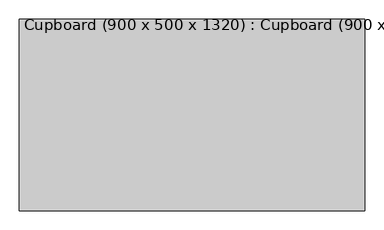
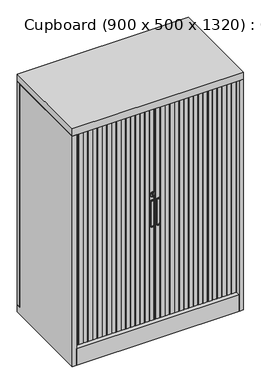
"""IFC4 building model written with IfcOpenShell, lengths in millimetres: furniture geometry, Cupboard (900 x 500 x 1320) : Cupboard (900 x 500 x 1320)."""

from ifc_helpers import new_model, si_unit, point, frame, frame_2d, origin, origin_with_axes, place, context, project, spatial, polyline, circle_curve, ellipse_curve, trimmed, segment, composite_curve, outline, extrude, faceted_brep, source, transform, mapped, element, save
from ifc_brep_helpers import plane_surface, cylinder_surface, revolved_surface, advanced_brep


def cupboard_900_x_500_x_1320_cupboard_900_x_500_x_1320_df4613f7(model_context):
    return source(origin(), model_context, "Body", "SolidModel", [
        advanced_brep(
        [(26.5273848, -229.0, 621.9022034), (26.5273848, -229.0, 748.0527572), (4.5273848, -229.0, 748.0527572), (4.5273848, -229.0, 621.9022034), (6.5273848, -229.0, 622.046184), (6.5273848, -229.0, 748.0415606), (24.5273848, -229.0, 748.0415606), (24.5273848, -229.0, 622.046184), (3.5273848, -228.0, 621.9022034), (3.5273848, -226.0, 621.9022034), (27.5273848, -226.0, 621.9022034), (27.5273848, -228.0, 621.9022034), (27.5273848, -220.0, 621.9022034), (27.5273848, -220.0, 748.0527572), (27.5273848, -226.0, 748.0527572), (27.5273848, -228.0, 748.0527572), (3.5273848, -226.0, 748.0527572), (3.5273848, -228.0, 748.0527572), (3.5273848, -220.0, 748.0527572), (3.5273848, -220.0, 621.9022034), (7.5273848, -228.0, 748.0415606), (7.5273848, -226.0, 748.0415606), (23.5273848, -226.0, 748.0415606), (23.5273848, -228.0, 748.0415606), (23.5273848, -226.0, 622.046184), (23.5273848, -228.0, 622.046184), (7.5273848, -226.0, 622.046184), (7.5273848, -228.0, 622.046184)],
        [
            (0, 1),
            (1, 2, circle_curve(frame((15.5273848, -229.0, 748.0527572), z_axis=(0.0, -1.0, 0.0), x_axis=(-1.0, 0.0, 0.0)), 11.0)),
            (2, 3),
            (3, 0, circle_curve(frame((15.5273848, -229.0, 621.9022034), z_axis=(0.0, -1.0, 0.0), x_axis=(1.0, 0.0, 0.0)), 11.0)),
            (4, 5),
            (5, 6, circle_curve(frame((15.5273848, -229.0, 748.0415606), z_axis=(0.0, 1.0, 0.0), x_axis=(1.0, 0.0, 0.0)), 9.0)),
            (6, 7),
            (7, 4, circle_curve(frame((15.5273848, -229.0, 622.046184), z_axis=(0.0, 1.0, 0.0), x_axis=(-1.0, 0.0, 0.0)), 9.0)),
            (8, 9),
            (9, 10, circle_curve(frame((15.5273848, -226.0, 621.9022034), z_axis=(0.0, -1.0, 0.0), x_axis=(1.0, 0.0, 0.0)), 12.0)),
            (10, 11),
            (11, 8, circle_curve(frame((15.5273848, -228.0, 621.9022034), z_axis=(0.0, 1.0, 0.0), x_axis=(1.0, 0.0, 0.0)), 12.0)),
            (10, 12),
            (12, 13),
            (13, 14),
            (14, 15),
            (15, 11),
            (14, 16, circle_curve(frame((15.5273848, -226.0, 748.0527572), z_axis=(0.0, -1.0, 0.0), x_axis=(1.0, 0.0, 0.0)), 12.0)),
            (16, 17),
            (17, 15, circle_curve(frame((15.5273848, -228.0, 748.0527572), z_axis=(0.0, 1.0, 0.0), x_axis=(1.0, 0.0, 0.0)), 12.0)),
            (8, 17),
            (16, 18),
            (18, 19),
            (19, 9),
            (20, 21),
            (21, 22, circle_curve(frame((15.5273848, -226.0, 748.0415606), z_axis=(0.0, 1.0, 0.0), x_axis=(1.0, 0.0, 0.0)), 8.0)),
            (22, 23),
            (23, 20, circle_curve(frame((15.5273848, -228.0, 748.0415606), z_axis=(0.0, -1.0, 0.0), x_axis=(1.0, 0.0, 0.0)), 8.0)),
            (22, 24),
            (24, 25),
            (25, 23),
            (24, 26, circle_curve(frame((15.5273848, -226.0, 622.046184), z_axis=(0.0, 1.0, 0.0), x_axis=(1.0, 0.0, 0.0)), 8.0)),
            (26, 27),
            (27, 25, circle_curve(frame((15.5273848, -228.0, 622.046184), z_axis=(0.0, -1.0, 0.0), x_axis=(1.0, 0.0, 0.0)), 8.0)),
            (20, 27),
            (26, 21),
            (4, 27, circle_curve(frame((6.5273848, -228.0, 622.046184), z_axis=(0.0, 0.0, 1.0), x_axis=(-1.0, 0.0, 0.0)), 1.0)),
            (20, 5, circle_curve(frame((6.5273848, -228.0, 748.0415606), z_axis=(0.0, 0.0, -1.0), x_axis=(-1.0, 0.0, 0.0)), 1.0)),
            (7, 25, circle_curve(frame((24.5273848, -228.0, 622.046184), z_axis=(0.0, 0.0, -1.0), x_axis=(1.0, 0.0, 0.0)), 1.0)),
            (6, 23, circle_curve(frame((24.5273848, -228.0, 748.0415606), z_axis=(0.0, 0.0, -1.0), x_axis=(1.0, 0.0, 0.0)), 1.0)),
            (0, 11, circle_curve(frame((26.5273848, -228.0, 621.9022034), z_axis=(0.0, 0.0, 1.0), x_axis=(1.0, 0.0, 0.0)), 1.0)),
            (15, 1, circle_curve(frame((26.5273848, -228.0, 748.0527572), z_axis=(0.0, 0.0, -1.0), x_axis=(1.0, 0.0, 0.0)), 1.0)),
            (3, 8, circle_curve(frame((4.5273848, -228.0, 621.9022034), z_axis=(0.0, 0.0, -1.0), x_axis=(-1.0, 0.0, 0.0)), 1.0)),
            (2, 17, circle_curve(frame((4.5273848, -228.0, 748.0527572), z_axis=(0.0, 0.0, -1.0), x_axis=(-1.0, 0.0, 0.0)), 1.0)),
            (18, 13, circle_curve(frame((15.5273848, -220.0, 748.0527572), z_axis=(0.0, 1.0, 0.0), x_axis=(1.0, 0.0, 0.0)), 12.0)),
            (12, 19, circle_curve(frame((15.5273848, -220.0, 621.9022034), z_axis=(0.0, 1.0, 0.0), x_axis=(1.0, 0.0, 0.0)), 12.0)),
        ],
        [
            plane_surface(frame((27.5273848, -229.0, 621.9022034), z_axis=(0.0, -1.0, 0.0), x_axis=(0.0, 0.0, 1.0))),
            cylinder_surface(frame((15.5273848, -226.0, 621.9022034), z_axis=(0.0, -1.0, 0.0), x_axis=(1.0, 0.0, 0.0)), 12.0),
            plane_surface(frame((27.5273848, -229.0, 621.9022034), z_axis=(1.0, 0.0, 0.0), x_axis=(0.0, 1.0, 0.0))),
            cylinder_surface(frame((15.5273848, -226.0, 748.0527572), z_axis=(0.0, -1.0, 0.0), x_axis=(1.0, 0.0, 0.0)), 12.0),
            plane_surface(frame((3.5273848, -229.0, 748.0527572), z_axis=(-1.0, 0.0, 0.0), x_axis=(0.0, 1.0, 0.0))),
            revolved_surface(polyline([(23.5273848, -226.0, 748.0415606), (23.5273848, -228.0, 748.0415606)]), (15.5273848, -229.0, 748.0415606), (0.0, 1.0, 0.0)),
            plane_surface(frame((23.5273848, -229.0, 748.0415606), z_axis=(-1.0, 0.0, 0.0), x_axis=(0.0, 1.0, 0.0))),
            revolved_surface(polyline([(23.5273848, -226.0, 622.046184), (23.5273848, -228.0, 622.046184)]), (15.5273848, -229.0, 622.046184), (0.0, 1.0, 0.0)),
            plane_surface(frame((7.5273848, -229.0, 622.046184), z_axis=(1.0, 0.0, 0.0), x_axis=(0.0, 1.0, 0.0))),
            cylinder_surface(frame((6.5273848, -228.0, 748.0415606), z_axis=(0.0, 0.0, -1.0), x_axis=(-1.0, 0.0, 0.0)), 1.0),
            revolved_surface(trimmed(ellipse_curve(frame((6.5273848, -228.0, 622.046184), z_axis=(0.0, 0.0, 1.0), x_axis=(-1.0, 0.0, 0.0)), 1.0, 1.0), [point((6.5273848, -229.0, 622.046184))], [point((7.5273848, -228.0, 622.046184))], True, "CARTESIAN"), (15.5273848, -229.0, 622.046184), (0.0, -1.0, 0.0)),
            cylinder_surface(frame((24.5273848, -228.0, 622.046184), z_axis=(0.0, 0.0, 1.0), x_axis=(1.0, 0.0, 0.0)), 1.0),
            revolved_surface(trimmed(ellipse_curve(frame((24.5273848, -228.0, 748.0415606), z_axis=(0.0, 0.0, -1.0), x_axis=(1.0, 0.0, 0.0)), 1.0, 1.0), [point((24.5273848, -229.0, 748.0415606))], [point((23.5273848, -228.0, 748.0415606))], True, "CARTESIAN"), (15.5273848, -229.0, 748.0415606), (0.0, -1.0, 0.0)),
            cylinder_surface(frame((26.5273848, -228.0, 748.0527572), z_axis=(0.0, 0.0, -1.0), x_axis=(1.0, 0.0, 0.0)), 1.0),
            revolved_surface(trimmed(ellipse_curve(frame((26.5273848, -228.0, 621.9022034), z_axis=(0.0, 0.0, 1.0), x_axis=(1.0, 0.0, 0.0)), 1.0, 1.0), [point((26.5273848, -229.0, 621.9022034))], [point((27.5273848, -228.0, 621.9022034))], True, "CARTESIAN"), (15.5273848, -229.0, 621.9022034), (0.0, 1.0, 0.0)),
            cylinder_surface(frame((4.5273848, -228.0, 621.9022034), z_axis=(0.0, 0.0, 1.0), x_axis=(-1.0, 0.0, 0.0)), 1.0),
            revolved_surface(trimmed(ellipse_curve(frame((4.5273848, -228.0, 748.0527572), z_axis=(0.0, 0.0, -1.0), x_axis=(-1.0, 0.0, 0.0)), 1.0, 1.0), [point((4.5273848, -229.0, 748.0527572))], [point((3.5273848, -228.0, 748.0527572))], True, "CARTESIAN"), (15.5273848, -229.0, 748.0527572), (0.0, 1.0, 0.0)),
            plane_surface(frame((27.5273848, -226.0, 621.9022034), z_axis=(0.0, -1.0, 0.0), x_axis=(0.0, 0.0, 1.0))),
            plane_surface(frame((27.5273848, -220.0, 621.9022034), z_axis=(0.0, 1.0, 0.0), x_axis=(0.0, 0.0, -1.0))),
            cylinder_surface(frame((15.5273848, -220.0, 621.9022034), z_axis=(0.0, -1.0, 0.0), x_axis=(1.0, 0.0, 0.0)), 12.0),
            cylinder_surface(frame((15.5273848, -220.0, 748.0527572), z_axis=(0.0, -1.0, 0.0), x_axis=(1.0, 0.0, 0.0)), 12.0),
        ],
        [
            (0, [[1, 2, 3, 4], [5, 6, 7, 8]]),
            (1, [[9, 10, 11, 12]]),
            (2, [[-11, 13, 14, 15, 16, 17]]),
            (3, [[-16, 18, 19, 20]]),
            (4, [[-9, 21, -19, 22, 23, 24]]),
            (5, [[25, 26, 27, 28]]),
            (6, [[-27, 29, 30, 31]]),
            (7, [[-30, 32, 33, 34]]),
            (8, [[-25, 35, -33, 36]]),
            (9, [[37, -35, 38, -5]]),
            (10, [[-37, -8, 39, -34]]),
            (11, [[-39, -7, 40, -31]]),
            (12, [[-38, -28, -40, -6]]),
            (13, [[41, -17, 42, -1]]),
            (14, [[-41, -4, 43, -12]]),
            (15, [[-43, -3, 44, -21]]),
            (16, [[-42, -20, -44, -2]]),
            (17, [[-26, -36, -32, -29]]),
            (18, [[-23, 45, -14, 46]]),
            (19, [[-46, -13, -10, -24]]),
            (20, [[-45, -22, -18, -15]]),
        ],
    ),
        advanced_brep(
        [(-26.8154748, -229.0, 789.9505671), (-3.7101479, -229.0, 789.9505671), (-14.2354266, -229.0, 796.0185691), (-14.2354266, -229.0, 784.0185691), (-16.2354266, -229.0, 784.0185691), (-16.2354266, -229.0, 796.0185691), (-27.8154748, -220.0, 789.9505671), (-2.7101479, -220.0, 789.9505671), (-14.2354266, -220.0, 796.0185691), (-16.2354266, -220.0, 796.0185691), (-16.2354266, -220.0, 784.0185691), (-14.2354266, -220.0, 784.0185691), (-2.7101479, -228.0, 789.9505671), (-27.8154748, -228.0, 789.9505671)],
        [
            (0, 1, circle_curve(frame((-15.2628114, -229.0, 789.9505671), z_axis=(0.0, -1.0, 0.0), x_axis=(1.0, 0.0, 0.0)), 11.5526635)),
            (1, 0, circle_curve(frame((-15.2628114, -229.0, 789.9505671), z_axis=(0.0, -1.0, 0.0), x_axis=(-1.0, 0.0, 0.0)), 11.5526635)),
            (2, 3),
            (3, 4),
            (4, 5),
            (5, 2),
            (6, 7, circle_curve(frame((-15.2628114, -220.0, 789.9505671), z_axis=(0.0, 1.0, 0.0), x_axis=(1.0, 0.0, 0.0)), 12.5526635)),
            (7, 6, circle_curve(frame((-15.2628114, -220.0, 789.9505671), z_axis=(0.0, 1.0, 0.0), x_axis=(1.0, 0.0, 0.0)), 12.5526635)),
            (8, 9),
            (9, 10),
            (10, 11),
            (11, 8),
            (7, 12),
            (12, 13, circle_curve(frame((-15.2628114, -228.0, 789.9505671), z_axis=(0.0, 1.0, 0.0), x_axis=(1.0, 0.0, 0.0)), 12.5526635)),
            (13, 6),
            (13, 12, circle_curve(frame((-15.2628114, -228.0, 789.9505671), z_axis=(0.0, 1.0, 0.0), x_axis=(1.0, 0.0, 0.0)), 12.5526635)),
            (2, 8),
            (11, 3),
            (10, 4),
            (9, 5),
            (0, 13, circle_curve(frame((-26.8154748, -228.0, 789.9505671), z_axis=(0.0, 0.0, -1.0), x_axis=(-1.0, 0.0, 0.0)), 1.0)),
            (12, 1, circle_curve(frame((-3.7101479, -228.0, 789.9505671), z_axis=(0.0, 0.0, -1.0), x_axis=(1.0, 0.0, 0.0)), 1.0)),
        ],
        [
            plane_surface(frame((-2.7101479, -229.0, 789.9505671), z_axis=(0.0, -1.0, 0.0), x_axis=(0.0, 0.0, 1.0))),
            plane_surface(frame((-2.7101479, -220.0, 789.9505671), z_axis=(0.0, 1.0, 0.0), x_axis=(0.0, 0.0, -1.0))),
            cylinder_surface(frame((-15.2628114, -220.0, 789.9505671), z_axis=(0.0, -1.0, 0.0), x_axis=(1.0, 0.0, 0.0)), 12.5526635),
            plane_surface(frame((-14.2354266, -229.0, 796.0185691), z_axis=(-1.0, 0.0, 0.0), x_axis=(0.0, 1.0, 0.0))),
            plane_surface(frame((-14.2354266, -229.0, 784.0185691), z_axis=(0.0, 0.0, 1.0), x_axis=(0.0, 1.0, 0.0))),
            plane_surface(frame((-16.2354266, -229.0, 784.0185691), z_axis=(1.0, 0.0, 0.0), x_axis=(0.0, 1.0, 0.0))),
            plane_surface(frame((-16.2354266, -229.0, 796.0185691), z_axis=(0.0, 0.0, -1.0), x_axis=(0.0, 1.0, 0.0))),
            revolved_surface(trimmed(ellipse_curve(frame((-3.7101479, -228.0, 789.9505671), z_axis=(0.0, 0.0, 1.0), x_axis=(1.0, 0.0, 0.0)), 1.0, 1.0), [point((-3.7101479, -229.0, 789.9505671))], [point((-2.7101479, -228.0, 789.9505671))], True, "CARTESIAN"), (-15.2628114, -229.0, 789.9505671), (0.0, 1.0, 0.0)),
            revolved_surface(trimmed(ellipse_curve(frame((-26.8154748, -228.0, 789.9505671), z_axis=(0.0, 0.0, -1.0), x_axis=(-1.0, 0.0, 0.0)), 1.0, 1.0), [point((-26.8154748, -229.0, 789.9505671))], [point((-27.8154748, -228.0, 789.9505671))], True, "CARTESIAN"), (-15.2628114, -229.0, 789.9505671), (0.0, 1.0, 0.0)),
        ],
        [
            (0, [[1, 2], [3, 4, 5, 6]]),
            (1, [[7, 8], [9, 10, 11, 12]]),
            (2, [[-8, 13, 14, 15]]),
            (2, [[-7, -15, 16, -13]]),
            (3, [[-3, 17, -12, 18]]),
            (4, [[-4, -18, -11, 19]]),
            (5, [[-5, -19, -10, 20]]),
            (6, [[-6, -20, -9, -17]]),
            (7, [[21, -14, 22, -1]]),
            (8, [[-21, -2, -22, -16]]),
        ],
    ),
        advanced_brep(
        [(-4.2354266, -229.0, 621.9022034), (-4.2354266, -229.0, 748.0527572), (-26.2354266, -229.0, 748.0527572), (-26.2354266, -229.0, 621.9022034), (-24.2354266, -229.0, 622.046184), (-24.2354266, -229.0, 748.0415606), (-6.2354266, -229.0, 748.0415606), (-6.2354266, -229.0, 622.046184), (-27.2354266, -228.0, 621.9022034), (-27.2354266, -226.0, 621.9022034), (-3.2354266, -226.0, 621.9022034), (-3.2354266, -228.0, 621.9022034), (-3.2354266, -220.0, 621.9022034), (-3.2354266, -220.0, 748.0527572), (-3.2354266, -226.0, 748.0527572), (-3.2354266, -228.0, 748.0527572), (-27.2354266, -226.0, 748.0527572), (-27.2354266, -228.0, 748.0527572), (-27.2354266, -220.0, 748.0527572), (-27.2354266, -220.0, 621.9022034), (-23.2354266, -228.0, 748.0415606), (-23.2354266, -226.0, 748.0415606), (-7.2354266, -226.0, 748.0415606), (-7.2354266, -228.0, 748.0415606), (-7.2354266, -226.0, 622.046184), (-7.2354266, -228.0, 622.046184), (-23.2354266, -226.0, 622.046184), (-23.2354266, -228.0, 622.046184)],
        [
            (0, 1),
            (1, 2, circle_curve(frame((-15.2354266, -229.0, 748.0527572), z_axis=(0.0, -1.0, 0.0), x_axis=(-1.0, 0.0, 0.0)), 11.0)),
            (2, 3),
            (3, 0, circle_curve(frame((-15.2354266, -229.0, 621.9022034), z_axis=(0.0, -1.0, 0.0), x_axis=(1.0, 0.0, 0.0)), 11.0)),
            (4, 5),
            (5, 6, circle_curve(frame((-15.2354266, -229.0, 748.0415606), z_axis=(0.0, 1.0, 0.0), x_axis=(1.0, 0.0, 0.0)), 9.0)),
            (6, 7),
            (7, 4, circle_curve(frame((-15.2354266, -229.0, 622.046184), z_axis=(0.0, 1.0, 0.0), x_axis=(-1.0, 0.0, 0.0)), 9.0)),
            (8, 9),
            (9, 10, circle_curve(frame((-15.2354266, -226.0, 621.9022034), z_axis=(0.0, -1.0, 0.0), x_axis=(1.0, 0.0, 0.0)), 12.0)),
            (10, 11),
            (11, 8, circle_curve(frame((-15.2354266, -228.0, 621.9022034), z_axis=(0.0, 1.0, 0.0), x_axis=(1.0, 0.0, 0.0)), 12.0)),
            (10, 12),
            (12, 13),
            (13, 14),
            (14, 15),
            (15, 11),
            (14, 16, circle_curve(frame((-15.2354266, -226.0, 748.0527572), z_axis=(0.0, -1.0, 0.0), x_axis=(1.0, 0.0, 0.0)), 12.0)),
            (16, 17),
            (17, 15, circle_curve(frame((-15.2354266, -228.0, 748.0527572), z_axis=(0.0, 1.0, 0.0), x_axis=(1.0, 0.0, 0.0)), 12.0)),
            (8, 17),
            (16, 18),
            (18, 19),
            (19, 9),
            (20, 21),
            (21, 22, circle_curve(frame((-15.2354266, -226.0, 748.0415606), z_axis=(0.0, 1.0, 0.0), x_axis=(1.0, 0.0, 0.0)), 8.0)),
            (22, 23),
            (23, 20, circle_curve(frame((-15.2354266, -228.0, 748.0415606), z_axis=(0.0, -1.0, 0.0), x_axis=(1.0, 0.0, 0.0)), 8.0)),
            (22, 24),
            (24, 25),
            (25, 23),
            (24, 26, circle_curve(frame((-15.2354266, -226.0, 622.046184), z_axis=(0.0, 1.0, 0.0), x_axis=(1.0, 0.0, 0.0)), 8.0)),
            (26, 27),
            (27, 25, circle_curve(frame((-15.2354266, -228.0, 622.046184), z_axis=(0.0, -1.0, 0.0), x_axis=(1.0, 0.0, 0.0)), 8.0)),
            (20, 27),
            (26, 21),
            (4, 27, circle_curve(frame((-24.2354266, -228.0, 622.046184), z_axis=(0.0, 0.0, 1.0), x_axis=(-1.0, 0.0, 0.0)), 1.0)),
            (20, 5, circle_curve(frame((-24.2354266, -228.0, 748.0415606), z_axis=(0.0, 0.0, -1.0), x_axis=(-1.0, 0.0, 0.0)), 1.0)),
            (7, 25, circle_curve(frame((-6.2354266, -228.0, 622.046184), z_axis=(0.0, 0.0, -1.0), x_axis=(1.0, 0.0, 0.0)), 1.0)),
            (6, 23, circle_curve(frame((-6.2354266, -228.0, 748.0415606), z_axis=(0.0, 0.0, -1.0), x_axis=(1.0, 0.0, 0.0)), 1.0)),
            (0, 11, circle_curve(frame((-4.2354266, -228.0, 621.9022034), z_axis=(0.0, 0.0, 1.0), x_axis=(1.0, 0.0, 0.0)), 1.0)),
            (15, 1, circle_curve(frame((-4.2354266, -228.0, 748.0527572), z_axis=(0.0, 0.0, -1.0), x_axis=(1.0, 0.0, 0.0)), 1.0)),
            (3, 8, circle_curve(frame((-26.2354266, -228.0, 621.9022034), z_axis=(0.0, 0.0, -1.0), x_axis=(-1.0, 0.0, 0.0)), 1.0)),
            (2, 17, circle_curve(frame((-26.2354266, -228.0, 748.0527572), z_axis=(0.0, 0.0, -1.0), x_axis=(-1.0, 0.0, 0.0)), 1.0)),
            (18, 13, circle_curve(frame((-15.2354266, -220.0, 748.0527572), z_axis=(0.0, 1.0, 0.0), x_axis=(1.0, 0.0, 0.0)), 12.0)),
            (12, 19, circle_curve(frame((-15.2354266, -220.0, 621.9022034), z_axis=(0.0, 1.0, 0.0), x_axis=(1.0, 0.0, 0.0)), 12.0)),
        ],
        [
            plane_surface(frame((-3.2354266, -229.0, 621.9022034), z_axis=(0.0, -1.0, 0.0), x_axis=(0.0, 0.0, 1.0))),
            cylinder_surface(frame((-15.2354266, -226.0, 621.9022034), z_axis=(0.0, -1.0, 0.0), x_axis=(1.0, 0.0, 0.0)), 12.0),
            plane_surface(frame((-3.2354266, -229.0, 621.9022034), z_axis=(1.0, 0.0, 0.0), x_axis=(0.0, 1.0, 0.0))),
            cylinder_surface(frame((-15.2354266, -226.0, 748.0527572), z_axis=(0.0, -1.0, 0.0), x_axis=(1.0, 0.0, 0.0)), 12.0),
            plane_surface(frame((-27.2354266, -229.0, 748.0527572), z_axis=(-1.0, 0.0, 0.0), x_axis=(0.0, 1.0, 0.0))),
            revolved_surface(polyline([(-7.2354266, -226.0, 748.0415606), (-7.2354266, -228.0, 748.0415606)]), (-15.2354266, -229.0, 748.0415606), (0.0, 1.0, 0.0)),
            plane_surface(frame((-7.2354266, -229.0, 748.0415606), z_axis=(-1.0, 0.0, 0.0), x_axis=(0.0, 1.0, 0.0))),
            revolved_surface(polyline([(-7.2354266, -226.0, 622.046184), (-7.2354266, -228.0, 622.046184)]), (-15.2354266, -229.0, 622.046184), (0.0, 1.0, 0.0)),
            plane_surface(frame((-23.2354266, -229.0, 622.046184), z_axis=(1.0, 0.0, 0.0), x_axis=(0.0, 1.0, 0.0))),
            cylinder_surface(frame((-24.2354266, -228.0, 748.0415606), z_axis=(0.0, 0.0, -1.0), x_axis=(-1.0, 0.0, 0.0)), 1.0),
            revolved_surface(trimmed(ellipse_curve(frame((-24.2354266, -228.0, 622.046184), z_axis=(0.0, 0.0, 1.0), x_axis=(-1.0, 0.0, 0.0)), 1.0, 1.0), [point((-24.2354266, -229.0, 622.046184))], [point((-23.2354266, -228.0, 622.046184))], True, "CARTESIAN"), (-15.2354266, -229.0, 622.046184), (0.0, -1.0, 0.0)),
            cylinder_surface(frame((-6.2354266, -228.0, 622.046184), z_axis=(0.0, 0.0, 1.0), x_axis=(1.0, 0.0, 0.0)), 1.0),
            revolved_surface(trimmed(ellipse_curve(frame((-6.2354266, -228.0, 748.0415606), z_axis=(0.0, 0.0, -1.0), x_axis=(1.0, 0.0, 0.0)), 1.0, 1.0), [point((-6.2354266, -229.0, 748.0415606))], [point((-7.2354266, -228.0, 748.0415606))], True, "CARTESIAN"), (-15.2354266, -229.0, 748.0415606), (0.0, -1.0, 0.0)),
            cylinder_surface(frame((-4.2354266, -228.0, 748.0527572), z_axis=(0.0, 0.0, -1.0), x_axis=(1.0, 0.0, 0.0)), 1.0),
            revolved_surface(trimmed(ellipse_curve(frame((-4.2354266, -228.0, 621.9022034), z_axis=(0.0, 0.0, 1.0), x_axis=(1.0, 0.0, 0.0)), 1.0, 1.0), [point((-4.2354266, -229.0, 621.9022034))], [point((-3.2354266, -228.0, 621.9022034))], True, "CARTESIAN"), (-15.2354266, -229.0, 621.9022034), (0.0, 1.0, 0.0)),
            cylinder_surface(frame((-26.2354266, -228.0, 621.9022034), z_axis=(0.0, 0.0, 1.0), x_axis=(-1.0, 0.0, 0.0)), 1.0),
            revolved_surface(trimmed(ellipse_curve(frame((-26.2354266, -228.0, 748.0527572), z_axis=(0.0, 0.0, -1.0), x_axis=(-1.0, 0.0, 0.0)), 1.0, 1.0), [point((-26.2354266, -229.0, 748.0527572))], [point((-27.2354266, -228.0, 748.0527572))], True, "CARTESIAN"), (-15.2354266, -229.0, 748.0527572), (0.0, 1.0, 0.0)),
            plane_surface(frame((-3.2354266, -226.0, 621.9022034), z_axis=(0.0, -1.0, 0.0), x_axis=(0.0, 0.0, 1.0))),
            plane_surface(frame((-3.2354266, -220.0, 621.9022034), z_axis=(0.0, 1.0, 0.0), x_axis=(0.0, 0.0, -1.0))),
            cylinder_surface(frame((-15.2354266, -220.0, 621.9022034), z_axis=(0.0, -1.0, 0.0), x_axis=(1.0, 0.0, 0.0)), 12.0),
            cylinder_surface(frame((-15.2354266, -220.0, 748.0527572), z_axis=(0.0, -1.0, 0.0), x_axis=(1.0, 0.0, 0.0)), 12.0),
        ],
        [
            (0, [[1, 2, 3, 4], [5, 6, 7, 8]]),
            (1, [[9, 10, 11, 12]]),
            (2, [[-11, 13, 14, 15, 16, 17]]),
            (3, [[-16, 18, 19, 20]]),
            (4, [[-9, 21, -19, 22, 23, 24]]),
            (5, [[25, 26, 27, 28]]),
            (6, [[-27, 29, 30, 31]]),
            (7, [[-30, 32, 33, 34]]),
            (8, [[-25, 35, -33, 36]]),
            (9, [[37, -35, 38, -5]]),
            (10, [[-37, -8, 39, -34]]),
            (11, [[-39, -7, 40, -31]]),
            (12, [[-38, -28, -40, -6]]),
            (13, [[41, -17, 42, -1]]),
            (14, [[-41, -4, 43, -12]]),
            (15, [[-43, -3, 44, -21]]),
            (16, [[-42, -20, -44, -2]]),
            (17, [[-26, -36, -32, -29]]),
            (18, [[-23, 45, -14, 46]]),
            (19, [[-46, -13, -10, -24]]),
            (20, [[-45, -22, -18, -15]]),
        ],
    ),
        extrude(outline(composite_curve([segment(polyline([(3.0, -220.0), (28.0, -220.0), (28.0, -223.0)]), True, "CONTINUOUS"), segment(trimmed(circle_curve(frame_2d((26.0, -223.0)), 2.0), [point((28.0, -223.0))], [point((26.0, -225.0))], False, "CARTESIAN"), True, "CONTINUOUS"), segment(polyline([(26.0, -225.0), (5.0, -225.0)]), True, "CONTINUOUS"), segment(trimmed(circle_curve(frame_2d((5.0, -223.0)), 2.0), [point((5.0, -225.0))], [point((3.0, -223.0))], False, "CARTESIAN"), True, "CONTINUOUS"), segment(polyline([(3.0, -223.0), (3.0, -220.0)]), True, "CONTINUOUS")], self_intersect=False)), frame((0.0, 0.0, 90.0), z_axis=(0.0, 0.0, 1.0), x_axis=(1.0, 0.0, 0.0)), (0.0, 0.0, 1.0), 1189.5),
        extrude(outline(composite_curve([segment(polyline([(28.0, -220.0), (53.0, -220.0), (53.0, -223.0)]), True, "CONTINUOUS"), segment(trimmed(circle_curve(frame_2d((51.0, -223.0)), 2.0), [point((53.0, -223.0))], [point((51.0, -225.0))], False, "CARTESIAN"), True, "CONTINUOUS"), segment(polyline([(51.0, -225.0), (30.0, -225.0)]), True, "CONTINUOUS"), segment(trimmed(circle_curve(frame_2d((30.0, -223.0)), 2.0), [point((30.0, -225.0))], [point((28.0, -223.0))], False, "CARTESIAN"), True, "CONTINUOUS"), segment(polyline([(28.0, -223.0), (28.0, -220.0)]), True, "CONTINUOUS")], self_intersect=False)), frame((0.0, 0.0, 90.0), z_axis=(0.0, 0.0, 1.0), x_axis=(1.0, 0.0, 0.0)), (0.0, 0.0, 1.0), 1189.5),
        extrude(outline(composite_curve([segment(polyline([(53.0, -220.0), (78.0, -220.0), (78.0, -223.0)]), True, "CONTINUOUS"), segment(trimmed(circle_curve(frame_2d((76.0, -223.0)), 2.0), [point((78.0, -223.0))], [point((76.0, -225.0))], False, "CARTESIAN"), True, "CONTINUOUS"), segment(polyline([(76.0, -225.0), (55.0, -225.0)]), True, "CONTINUOUS"), segment(trimmed(circle_curve(frame_2d((55.0, -223.0)), 2.0), [point((55.0, -225.0))], [point((53.0, -223.0))], False, "CARTESIAN"), True, "CONTINUOUS"), segment(polyline([(53.0, -223.0), (53.0, -220.0)]), True, "CONTINUOUS")], self_intersect=False)), frame((0.0, 0.0, 90.0), z_axis=(0.0, 0.0, 1.0), x_axis=(1.0, 0.0, 0.0)), (0.0, 0.0, 1.0), 1189.5),
        extrude(outline(composite_curve([segment(polyline([(78.0, -220.0), (103.0, -220.0), (103.0, -223.0)]), True, "CONTINUOUS"), segment(trimmed(circle_curve(frame_2d((101.0, -223.0)), 2.0), [point((103.0, -223.0))], [point((101.0, -225.0))], False, "CARTESIAN"), True, "CONTINUOUS"), segment(polyline([(101.0, -225.0), (80.0, -225.0)]), True, "CONTINUOUS"), segment(trimmed(circle_curve(frame_2d((80.0, -223.0)), 2.0), [point((80.0, -225.0))], [point((78.0, -223.0))], False, "CARTESIAN"), True, "CONTINUOUS"), segment(polyline([(78.0, -223.0), (78.0, -220.0)]), True, "CONTINUOUS")], self_intersect=False)), frame((0.0, 0.0, 90.0), z_axis=(0.0, 0.0, 1.0), x_axis=(1.0, 0.0, 0.0)), (0.0, 0.0, 1.0), 1189.5),
        extrude(outline(composite_curve([segment(polyline([(103.0, -220.0), (128.0, -220.0), (128.0, -223.0)]), True, "CONTINUOUS"), segment(trimmed(circle_curve(frame_2d((126.0, -223.0)), 2.0), [point((128.0, -223.0))], [point((126.0, -225.0))], False, "CARTESIAN"), True, "CONTINUOUS"), segment(polyline([(126.0, -225.0), (105.0, -225.0)]), True, "CONTINUOUS"), segment(trimmed(circle_curve(frame_2d((105.0, -223.0)), 2.0), [point((105.0, -225.0))], [point((103.0, -223.0))], False, "CARTESIAN"), True, "CONTINUOUS"), segment(polyline([(103.0, -223.0), (103.0, -220.0)]), True, "CONTINUOUS")], self_intersect=False)), frame((0.0, 0.0, 90.0), z_axis=(0.0, 0.0, 1.0), x_axis=(1.0, 0.0, 0.0)), (0.0, 0.0, 1.0), 1189.5),
        extrude(outline(composite_curve([segment(polyline([(128.0, -220.0), (153.0, -220.0), (153.0, -223.0)]), True, "CONTINUOUS"), segment(trimmed(circle_curve(frame_2d((151.0, -223.0)), 2.0), [point((153.0, -223.0))], [point((151.0, -225.0))], False, "CARTESIAN"), True, "CONTINUOUS"), segment(polyline([(151.0, -225.0), (130.0, -225.0)]), True, "CONTINUOUS"), segment(trimmed(circle_curve(frame_2d((130.0, -223.0)), 2.0), [point((130.0, -225.0))], [point((128.0, -223.0))], False, "CARTESIAN"), True, "CONTINUOUS"), segment(polyline([(128.0, -223.0), (128.0, -220.0)]), True, "CONTINUOUS")], self_intersect=False)), frame((0.0, 0.0, 90.0), z_axis=(0.0, 0.0, 1.0), x_axis=(1.0, 0.0, 0.0)), (0.0, 0.0, 1.0), 1189.5),
        extrude(outline(composite_curve([segment(polyline([(153.0, -220.0), (178.0, -220.0), (178.0, -223.0)]), True, "CONTINUOUS"), segment(trimmed(circle_curve(frame_2d((176.0, -223.0)), 2.0), [point((178.0, -223.0))], [point((176.0, -225.0))], False, "CARTESIAN"), True, "CONTINUOUS"), segment(polyline([(176.0, -225.0), (155.0, -225.0)]), True, "CONTINUOUS"), segment(trimmed(circle_curve(frame_2d((155.0, -223.0)), 2.0), [point((155.0, -225.0))], [point((153.0, -223.0))], False, "CARTESIAN"), True, "CONTINUOUS"), segment(polyline([(153.0, -223.0), (153.0, -220.0)]), True, "CONTINUOUS")], self_intersect=False)), frame((0.0, 0.0, 90.0), z_axis=(0.0, 0.0, 1.0), x_axis=(1.0, 0.0, 0.0)), (0.0, 0.0, 1.0), 1189.5),
        extrude(outline(composite_curve([segment(polyline([(178.0, -220.0), (203.0, -220.0), (203.0, -223.0)]), True, "CONTINUOUS"), segment(trimmed(circle_curve(frame_2d((201.0, -223.0)), 2.0), [point((203.0, -223.0))], [point((201.0, -225.0))], False, "CARTESIAN"), True, "CONTINUOUS"), segment(polyline([(201.0, -225.0), (180.0, -225.0)]), True, "CONTINUOUS"), segment(trimmed(circle_curve(frame_2d((180.0, -223.0)), 2.0), [point((180.0, -225.0))], [point((178.0, -223.0))], False, "CARTESIAN"), True, "CONTINUOUS"), segment(polyline([(178.0, -223.0), (178.0, -220.0)]), True, "CONTINUOUS")], self_intersect=False)), frame((0.0, 0.0, 90.0), z_axis=(0.0, 0.0, 1.0), x_axis=(1.0, 0.0, 0.0)), (0.0, 0.0, 1.0), 1189.5),
        extrude(outline(composite_curve([segment(polyline([(203.0, -220.0), (228.0, -220.0), (228.0, -223.0)]), True, "CONTINUOUS"), segment(trimmed(circle_curve(frame_2d((226.0, -223.0)), 2.0), [point((228.0, -223.0))], [point((226.0, -225.0))], False, "CARTESIAN"), True, "CONTINUOUS"), segment(polyline([(226.0, -225.0), (205.0, -225.0)]), True, "CONTINUOUS"), segment(trimmed(circle_curve(frame_2d((205.0, -223.0)), 2.0), [point((205.0, -225.0))], [point((203.0, -223.0))], False, "CARTESIAN"), True, "CONTINUOUS"), segment(polyline([(203.0, -223.0), (203.0, -220.0)]), True, "CONTINUOUS")], self_intersect=False)), frame((0.0, 0.0, 90.0), z_axis=(0.0, 0.0, 1.0), x_axis=(1.0, 0.0, 0.0)), (0.0, 0.0, 1.0), 1189.5),
        extrude(outline(composite_curve([segment(polyline([(228.0, -220.0), (253.0, -220.0), (253.0, -223.0)]), True, "CONTINUOUS"), segment(trimmed(circle_curve(frame_2d((251.0, -223.0)), 2.0), [point((253.0, -223.0))], [point((251.0, -225.0))], False, "CARTESIAN"), True, "CONTINUOUS"), segment(polyline([(251.0, -225.0), (230.0, -225.0)]), True, "CONTINUOUS"), segment(trimmed(circle_curve(frame_2d((230.0, -223.0)), 2.0), [point((230.0, -225.0))], [point((228.0, -223.0))], False, "CARTESIAN"), True, "CONTINUOUS"), segment(polyline([(228.0, -223.0), (228.0, -220.0)]), True, "CONTINUOUS")], self_intersect=False)), frame((0.0, 0.0, 90.0), z_axis=(0.0, 0.0, 1.0), x_axis=(1.0, 0.0, 0.0)), (0.0, 0.0, 1.0), 1189.5),
        extrude(outline(composite_curve([segment(polyline([(253.0, -220.0), (278.0, -220.0), (278.0, -223.0)]), True, "CONTINUOUS"), segment(trimmed(circle_curve(frame_2d((276.0, -223.0)), 2.0), [point((278.0, -223.0))], [point((276.0, -225.0))], False, "CARTESIAN"), True, "CONTINUOUS"), segment(polyline([(276.0, -225.0), (255.0, -225.0)]), True, "CONTINUOUS"), segment(trimmed(circle_curve(frame_2d((255.0, -223.0)), 2.0), [point((255.0, -225.0))], [point((253.0, -223.0))], False, "CARTESIAN"), True, "CONTINUOUS"), segment(polyline([(253.0, -223.0), (253.0, -220.0)]), True, "CONTINUOUS")], self_intersect=False)), frame((0.0, 0.0, 90.0), z_axis=(0.0, 0.0, 1.0), x_axis=(1.0, 0.0, 0.0)), (0.0, 0.0, 1.0), 1189.5),
        extrude(outline(composite_curve([segment(polyline([(278.0, -220.0), (303.0, -220.0), (303.0, -223.0)]), True, "CONTINUOUS"), segment(trimmed(circle_curve(frame_2d((301.0, -223.0)), 2.0), [point((303.0, -223.0))], [point((301.0, -225.0))], False, "CARTESIAN"), True, "CONTINUOUS"), segment(polyline([(301.0, -225.0), (280.0, -225.0)]), True, "CONTINUOUS"), segment(trimmed(circle_curve(frame_2d((280.0, -223.0)), 2.0), [point((280.0, -225.0))], [point((278.0, -223.0))], False, "CARTESIAN"), True, "CONTINUOUS"), segment(polyline([(278.0, -223.0), (278.0, -220.0)]), True, "CONTINUOUS")], self_intersect=False)), frame((0.0, 0.0, 90.0), z_axis=(0.0, 0.0, 1.0), x_axis=(1.0, 0.0, 0.0)), (0.0, 0.0, 1.0), 1189.5),
        extrude(outline(composite_curve([segment(polyline([(303.0, -220.0), (328.0, -220.0), (328.0, -223.0)]), True, "CONTINUOUS"), segment(trimmed(circle_curve(frame_2d((326.0, -223.0)), 2.0), [point((328.0, -223.0))], [point((326.0, -225.0))], False, "CARTESIAN"), True, "CONTINUOUS"), segment(polyline([(326.0, -225.0), (305.0, -225.0)]), True, "CONTINUOUS"), segment(trimmed(circle_curve(frame_2d((305.0, -223.0)), 2.0), [point((305.0, -225.0))], [point((303.0, -223.0))], False, "CARTESIAN"), True, "CONTINUOUS"), segment(polyline([(303.0, -223.0), (303.0, -220.0)]), True, "CONTINUOUS")], self_intersect=False)), frame((0.0, 0.0, 90.0), z_axis=(0.0, 0.0, 1.0), x_axis=(1.0, 0.0, 0.0)), (0.0, 0.0, 1.0), 1189.5),
        extrude(outline(composite_curve([segment(polyline([(328.0, -220.0), (353.0, -220.0), (353.0, -223.0)]), True, "CONTINUOUS"), segment(trimmed(circle_curve(frame_2d((351.0, -223.0)), 2.0), [point((353.0, -223.0))], [point((351.0, -225.0))], False, "CARTESIAN"), True, "CONTINUOUS"), segment(polyline([(351.0, -225.0), (330.0, -225.0)]), True, "CONTINUOUS"), segment(trimmed(circle_curve(frame_2d((330.0, -223.0)), 2.0), [point((330.0, -225.0))], [point((328.0, -223.0))], False, "CARTESIAN"), True, "CONTINUOUS"), segment(polyline([(328.0, -223.0), (328.0, -220.0)]), True, "CONTINUOUS")], self_intersect=False)), frame((0.0, 0.0, 90.0), z_axis=(0.0, 0.0, 1.0), x_axis=(1.0, 0.0, 0.0)), (0.0, 0.0, 1.0), 1189.5),
        extrude(outline(composite_curve([segment(polyline([(353.0, -220.0), (378.0, -220.0), (378.0, -223.0)]), True, "CONTINUOUS"), segment(trimmed(circle_curve(frame_2d((376.0, -223.0)), 2.0), [point((378.0, -223.0))], [point((376.0, -225.0))], False, "CARTESIAN"), True, "CONTINUOUS"), segment(polyline([(376.0, -225.0), (355.0, -225.0)]), True, "CONTINUOUS"), segment(trimmed(circle_curve(frame_2d((355.0, -223.0)), 2.0), [point((355.0, -225.0))], [point((353.0, -223.0))], False, "CARTESIAN"), True, "CONTINUOUS"), segment(polyline([(353.0, -223.0), (353.0, -220.0)]), True, "CONTINUOUS")], self_intersect=False)), frame((0.0, 0.0, 90.0), z_axis=(0.0, 0.0, 1.0), x_axis=(1.0, 0.0, 0.0)), (0.0, 0.0, 1.0), 1189.5),
        extrude(outline(composite_curve([segment(polyline([(378.0, -220.0), (403.0, -220.0), (403.0, -223.0)]), True, "CONTINUOUS"), segment(trimmed(circle_curve(frame_2d((401.0, -223.0)), 2.0), [point((403.0, -223.0))], [point((401.0, -225.0))], False, "CARTESIAN"), True, "CONTINUOUS"), segment(polyline([(401.0, -225.0), (380.0, -225.0)]), True, "CONTINUOUS"), segment(trimmed(circle_curve(frame_2d((380.0, -223.0)), 2.0), [point((380.0, -225.0))], [point((378.0, -223.0))], False, "CARTESIAN"), True, "CONTINUOUS"), segment(polyline([(378.0, -223.0), (378.0, -220.0)]), True, "CONTINUOUS")], self_intersect=False)), frame((0.0, 0.0, 90.0), z_axis=(0.0, 0.0, 1.0), x_axis=(1.0, 0.0, 0.0)), (0.0, 0.0, 1.0), 1189.5),
        extrude(outline(composite_curve([segment(polyline([(403.0, -220.0), (428.0, -220.0), (428.0, -223.0)]), True, "CONTINUOUS"), segment(trimmed(circle_curve(frame_2d((426.0, -223.0)), 2.0), [point((428.0, -223.0))], [point((426.0, -225.0))], False, "CARTESIAN"), True, "CONTINUOUS"), segment(polyline([(426.0, -225.0), (405.0, -225.0)]), True, "CONTINUOUS"), segment(trimmed(circle_curve(frame_2d((405.0, -223.0)), 2.0), [point((405.0, -225.0))], [point((403.0, -223.0))], False, "CARTESIAN"), True, "CONTINUOUS"), segment(polyline([(403.0, -223.0), (403.0, -220.0)]), True, "CONTINUOUS")], self_intersect=False)), frame((0.0, 0.0, 90.0), z_axis=(0.0, 0.0, 1.0), x_axis=(1.0, 0.0, 0.0)), (0.0, 0.0, 1.0), 1189.5),
        extrude(outline(composite_curve([segment(polyline([(3.0, -220.0), (3.0, -223.5)]), True, "CONTINUOUS"), segment(trimmed(circle_curve(frame_2d((1.5, -223.5)), 1.5), [point((3.0, -223.5))], [point((1.5, -225.0))], False, "CARTESIAN"), True, "CONTINUOUS"), segment(polyline([(1.5, -225.0), (0.5, -225.0), (0.5, -220.0), (3.0, -220.0)]), True, "CONTINUOUS")], self_intersect=False)), frame((0.0, 0.0, 90.0), z_axis=(0.0, 0.0, 1.0), x_axis=(1.0, 0.0, 0.0)), (0.0, 0.0, 1.0), 1189.5),
        extrude(outline(composite_curve([segment(polyline([(-3.0, -220.0), (-3.0, -223.0)]), True, "CONTINUOUS"), segment(trimmed(circle_curve(frame_2d((-5.0, -223.0)), 2.0), [point((-3.0, -223.0))], [point((-5.0, -225.0))], False, "CARTESIAN"), True, "CONTINUOUS"), segment(polyline([(-5.0, -225.0), (-26.0, -225.0)]), True, "CONTINUOUS"), segment(trimmed(circle_curve(frame_2d((-26.0, -223.0)), 2.0), [point((-26.0, -225.0))], [point((-28.0, -223.0))], False, "CARTESIAN"), True, "CONTINUOUS"), segment(polyline([(-28.0, -223.0), (-28.0, -220.0), (-3.0, -220.0)]), True, "CONTINUOUS")], self_intersect=False)), frame((0.0, 0.0, 90.0), z_axis=(0.0, 0.0, 1.0), x_axis=(1.0, 0.0, 0.0)), (0.0, 0.0, 1.0), 1189.5),
        extrude(outline(composite_curve([segment(polyline([(-28.0, -220.0), (-28.0, -223.0)]), True, "CONTINUOUS"), segment(trimmed(circle_curve(frame_2d((-30.0, -223.0)), 2.0), [point((-28.0, -223.0))], [point((-30.0, -225.0))], False, "CARTESIAN"), True, "CONTINUOUS"), segment(polyline([(-30.0, -225.0), (-51.0, -225.0)]), True, "CONTINUOUS"), segment(trimmed(circle_curve(frame_2d((-51.0, -223.0)), 2.0), [point((-51.0, -225.0))], [point((-53.0, -223.0))], False, "CARTESIAN"), True, "CONTINUOUS"), segment(polyline([(-53.0, -223.0), (-53.0, -220.0), (-28.0, -220.0)]), True, "CONTINUOUS")], self_intersect=False)), frame((0.0, 0.0, 90.0), z_axis=(0.0, 0.0, 1.0), x_axis=(1.0, 0.0, 0.0)), (0.0, 0.0, 1.0), 1189.5),
        extrude(outline(composite_curve([segment(polyline([(-53.0, -220.0), (-53.0, -223.0)]), True, "CONTINUOUS"), segment(trimmed(circle_curve(frame_2d((-55.0, -223.0)), 2.0), [point((-53.0, -223.0))], [point((-55.0, -225.0))], False, "CARTESIAN"), True, "CONTINUOUS"), segment(polyline([(-55.0, -225.0), (-76.0, -225.0)]), True, "CONTINUOUS"), segment(trimmed(circle_curve(frame_2d((-76.0, -223.0)), 2.0), [point((-76.0, -225.0))], [point((-78.0, -223.0))], False, "CARTESIAN"), True, "CONTINUOUS"), segment(polyline([(-78.0, -223.0), (-78.0, -220.0), (-53.0, -220.0)]), True, "CONTINUOUS")], self_intersect=False)), frame((0.0, 0.0, 90.0), z_axis=(0.0, 0.0, 1.0), x_axis=(1.0, 0.0, 0.0)), (0.0, 0.0, 1.0), 1189.5),
        extrude(outline(composite_curve([segment(polyline([(-78.0, -220.0), (-78.0, -223.0)]), True, "CONTINUOUS"), segment(trimmed(circle_curve(frame_2d((-80.0, -223.0)), 2.0), [point((-78.0, -223.0))], [point((-80.0, -225.0))], False, "CARTESIAN"), True, "CONTINUOUS"), segment(polyline([(-80.0, -225.0), (-101.0, -225.0)]), True, "CONTINUOUS"), segment(trimmed(circle_curve(frame_2d((-101.0, -223.0)), 2.0), [point((-101.0, -225.0))], [point((-103.0, -223.0))], False, "CARTESIAN"), True, "CONTINUOUS"), segment(polyline([(-103.0, -223.0), (-103.0, -220.0), (-78.0, -220.0)]), True, "CONTINUOUS")], self_intersect=False)), frame((0.0, 0.0, 90.0), z_axis=(0.0, 0.0, 1.0), x_axis=(1.0, 0.0, 0.0)), (0.0, 0.0, 1.0), 1189.5),
        extrude(outline(composite_curve([segment(polyline([(-103.0, -220.0), (-103.0, -223.0)]), True, "CONTINUOUS"), segment(trimmed(circle_curve(frame_2d((-105.0, -223.0)), 2.0), [point((-103.0, -223.0))], [point((-105.0, -225.0))], False, "CARTESIAN"), True, "CONTINUOUS"), segment(polyline([(-105.0, -225.0), (-126.0, -225.0)]), True, "CONTINUOUS"), segment(trimmed(circle_curve(frame_2d((-126.0, -223.0)), 2.0), [point((-126.0, -225.0))], [point((-128.0, -223.0))], False, "CARTESIAN"), True, "CONTINUOUS"), segment(polyline([(-128.0, -223.0), (-128.0, -220.0), (-103.0, -220.0)]), True, "CONTINUOUS")], self_intersect=False)), frame((0.0, 0.0, 90.0), z_axis=(0.0, 0.0, 1.0), x_axis=(1.0, 0.0, 0.0)), (0.0, 0.0, 1.0), 1189.5),
        extrude(outline(composite_curve([segment(polyline([(-128.0, -220.0), (-128.0, -223.0)]), True, "CONTINUOUS"), segment(trimmed(circle_curve(frame_2d((-130.0, -223.0)), 2.0), [point((-128.0, -223.0))], [point((-130.0, -225.0))], False, "CARTESIAN"), True, "CONTINUOUS"), segment(polyline([(-130.0, -225.0), (-151.0, -225.0)]), True, "CONTINUOUS"), segment(trimmed(circle_curve(frame_2d((-151.0, -223.0)), 2.0), [point((-151.0, -225.0))], [point((-153.0, -223.0))], False, "CARTESIAN"), True, "CONTINUOUS"), segment(polyline([(-153.0, -223.0), (-153.0, -220.0), (-128.0, -220.0)]), True, "CONTINUOUS")], self_intersect=False)), frame((0.0, 0.0, 90.0), z_axis=(0.0, 0.0, 1.0), x_axis=(1.0, 0.0, 0.0)), (0.0, 0.0, 1.0), 1189.5),
        extrude(outline(composite_curve([segment(polyline([(-153.0, -220.0), (-153.0, -223.0)]), True, "CONTINUOUS"), segment(trimmed(circle_curve(frame_2d((-155.0, -223.0)), 2.0), [point((-153.0, -223.0))], [point((-155.0, -225.0))], False, "CARTESIAN"), True, "CONTINUOUS"), segment(polyline([(-155.0, -225.0), (-176.0, -225.0)]), True, "CONTINUOUS"), segment(trimmed(circle_curve(frame_2d((-176.0, -223.0)), 2.0), [point((-176.0, -225.0))], [point((-178.0, -223.0))], False, "CARTESIAN"), True, "CONTINUOUS"), segment(polyline([(-178.0, -223.0), (-178.0, -220.0), (-153.0, -220.0)]), True, "CONTINUOUS")], self_intersect=False)), frame((0.0, 0.0, 90.0), z_axis=(0.0, 0.0, 1.0), x_axis=(1.0, 0.0, 0.0)), (0.0, 0.0, 1.0), 1189.5),
        extrude(outline(composite_curve([segment(polyline([(-178.0, -220.0), (-178.0, -223.0)]), True, "CONTINUOUS"), segment(trimmed(circle_curve(frame_2d((-180.0, -223.0)), 2.0), [point((-178.0, -223.0))], [point((-180.0, -225.0))], False, "CARTESIAN"), True, "CONTINUOUS"), segment(polyline([(-180.0, -225.0), (-201.0, -225.0)]), True, "CONTINUOUS"), segment(trimmed(circle_curve(frame_2d((-201.0, -223.0)), 2.0), [point((-201.0, -225.0))], [point((-203.0, -223.0))], False, "CARTESIAN"), True, "CONTINUOUS"), segment(polyline([(-203.0, -223.0), (-203.0, -220.0), (-178.0, -220.0)]), True, "CONTINUOUS")], self_intersect=False)), frame((0.0, 0.0, 90.0), z_axis=(0.0, 0.0, 1.0), x_axis=(1.0, 0.0, 0.0)), (0.0, 0.0, 1.0), 1189.5),
        extrude(outline(composite_curve([segment(polyline([(-203.0, -220.0), (-203.0, -223.0)]), True, "CONTINUOUS"), segment(trimmed(circle_curve(frame_2d((-205.0, -223.0)), 2.0), [point((-203.0, -223.0))], [point((-205.0, -225.0))], False, "CARTESIAN"), True, "CONTINUOUS"), segment(polyline([(-205.0, -225.0), (-226.0, -225.0)]), True, "CONTINUOUS"), segment(trimmed(circle_curve(frame_2d((-226.0, -223.0)), 2.0), [point((-226.0, -225.0))], [point((-228.0, -223.0))], False, "CARTESIAN"), True, "CONTINUOUS"), segment(polyline([(-228.0, -223.0), (-228.0, -220.0), (-203.0, -220.0)]), True, "CONTINUOUS")], self_intersect=False)), frame((0.0, 0.0, 90.0), z_axis=(0.0, 0.0, 1.0), x_axis=(1.0, 0.0, 0.0)), (0.0, 0.0, 1.0), 1189.5),
        extrude(outline(composite_curve([segment(polyline([(-228.0, -220.0), (-228.0, -223.0)]), True, "CONTINUOUS"), segment(trimmed(circle_curve(frame_2d((-230.0, -223.0)), 2.0), [point((-228.0, -223.0))], [point((-230.0, -225.0))], False, "CARTESIAN"), True, "CONTINUOUS"), segment(polyline([(-230.0, -225.0), (-251.0, -225.0)]), True, "CONTINUOUS"), segment(trimmed(circle_curve(frame_2d((-251.0, -223.0)), 2.0), [point((-251.0, -225.0))], [point((-253.0, -223.0))], False, "CARTESIAN"), True, "CONTINUOUS"), segment(polyline([(-253.0, -223.0), (-253.0, -220.0), (-228.0, -220.0)]), True, "CONTINUOUS")], self_intersect=False)), frame((0.0, 0.0, 90.0), z_axis=(0.0, 0.0, 1.0), x_axis=(1.0, 0.0, 0.0)), (0.0, 0.0, 1.0), 1189.5),
        extrude(outline(composite_curve([segment(polyline([(-253.0, -220.0), (-253.0, -223.0)]), True, "CONTINUOUS"), segment(trimmed(circle_curve(frame_2d((-255.0, -223.0)), 2.0), [point((-253.0, -223.0))], [point((-255.0, -225.0))], False, "CARTESIAN"), True, "CONTINUOUS"), segment(polyline([(-255.0, -225.0), (-276.0, -225.0)]), True, "CONTINUOUS"), segment(trimmed(circle_curve(frame_2d((-276.0, -223.0)), 2.0), [point((-276.0, -225.0))], [point((-278.0, -223.0))], False, "CARTESIAN"), True, "CONTINUOUS"), segment(polyline([(-278.0, -223.0), (-278.0, -220.0), (-253.0, -220.0)]), True, "CONTINUOUS")], self_intersect=False)), frame((0.0, 0.0, 90.0), z_axis=(0.0, 0.0, 1.0), x_axis=(1.0, 0.0, 0.0)), (0.0, 0.0, 1.0), 1189.5),
        extrude(outline(composite_curve([segment(polyline([(-278.0, -220.0), (-278.0, -223.0)]), True, "CONTINUOUS"), segment(trimmed(circle_curve(frame_2d((-280.0, -223.0)), 2.0), [point((-278.0, -223.0))], [point((-280.0, -225.0))], False, "CARTESIAN"), True, "CONTINUOUS"), segment(polyline([(-280.0, -225.0), (-301.0, -225.0)]), True, "CONTINUOUS"), segment(trimmed(circle_curve(frame_2d((-301.0, -223.0)), 2.0), [point((-301.0, -225.0))], [point((-303.0, -223.0))], False, "CARTESIAN"), True, "CONTINUOUS"), segment(polyline([(-303.0, -223.0), (-303.0, -220.0), (-278.0, -220.0)]), True, "CONTINUOUS")], self_intersect=False)), frame((0.0, 0.0, 90.0), z_axis=(0.0, 0.0, 1.0), x_axis=(1.0, 0.0, 0.0)), (0.0, 0.0, 1.0), 1189.5),
        extrude(outline(composite_curve([segment(polyline([(-303.0, -220.0), (-303.0, -223.0)]), True, "CONTINUOUS"), segment(trimmed(circle_curve(frame_2d((-305.0, -223.0)), 2.0), [point((-303.0, -223.0))], [point((-305.0, -225.0))], False, "CARTESIAN"), True, "CONTINUOUS"), segment(polyline([(-305.0, -225.0), (-326.0, -225.0)]), True, "CONTINUOUS"), segment(trimmed(circle_curve(frame_2d((-326.0, -223.0)), 2.0), [point((-326.0, -225.0))], [point((-328.0, -223.0))], False, "CARTESIAN"), True, "CONTINUOUS"), segment(polyline([(-328.0, -223.0), (-328.0, -220.0), (-303.0, -220.0)]), True, "CONTINUOUS")], self_intersect=False)), frame((0.0, 0.0, 90.0), z_axis=(0.0, 0.0, 1.0), x_axis=(1.0, 0.0, 0.0)), (0.0, 0.0, 1.0), 1189.5),
        extrude(outline(composite_curve([segment(polyline([(-328.0, -220.0), (-328.0, -223.0)]), True, "CONTINUOUS"), segment(trimmed(circle_curve(frame_2d((-330.0, -223.0)), 2.0), [point((-328.0, -223.0))], [point((-330.0, -225.0))], False, "CARTESIAN"), True, "CONTINUOUS"), segment(polyline([(-330.0, -225.0), (-351.0, -225.0)]), True, "CONTINUOUS"), segment(trimmed(circle_curve(frame_2d((-351.0, -223.0)), 2.0), [point((-351.0, -225.0))], [point((-353.0, -223.0))], False, "CARTESIAN"), True, "CONTINUOUS"), segment(polyline([(-353.0, -223.0), (-353.0, -220.0), (-328.0, -220.0)]), True, "CONTINUOUS")], self_intersect=False)), frame((0.0, 0.0, 90.0), z_axis=(0.0, 0.0, 1.0), x_axis=(1.0, 0.0, 0.0)), (0.0, 0.0, 1.0), 1189.5),
        extrude(outline(composite_curve([segment(polyline([(-353.0, -220.0), (-353.0, -223.0)]), True, "CONTINUOUS"), segment(trimmed(circle_curve(frame_2d((-355.0, -223.0)), 2.0), [point((-353.0, -223.0))], [point((-355.0, -225.0))], False, "CARTESIAN"), True, "CONTINUOUS"), segment(polyline([(-355.0, -225.0), (-376.0, -225.0)]), True, "CONTINUOUS"), segment(trimmed(circle_curve(frame_2d((-376.0, -223.0)), 2.0), [point((-376.0, -225.0))], [point((-378.0, -223.0))], False, "CARTESIAN"), True, "CONTINUOUS"), segment(polyline([(-378.0, -223.0), (-378.0, -220.0), (-353.0, -220.0)]), True, "CONTINUOUS")], self_intersect=False)), frame((0.0, 0.0, 90.0), z_axis=(0.0, 0.0, 1.0), x_axis=(1.0, 0.0, 0.0)), (0.0, 0.0, 1.0), 1189.5),
        extrude(outline(composite_curve([segment(polyline([(-378.0, -220.0), (-378.0, -223.0)]), True, "CONTINUOUS"), segment(trimmed(circle_curve(frame_2d((-380.0, -223.0)), 2.0), [point((-378.0, -223.0))], [point((-380.0, -225.0))], False, "CARTESIAN"), True, "CONTINUOUS"), segment(polyline([(-380.0, -225.0), (-401.0, -225.0)]), True, "CONTINUOUS"), segment(trimmed(circle_curve(frame_2d((-401.0, -223.0)), 2.0), [point((-401.0, -225.0))], [point((-403.0, -223.0))], False, "CARTESIAN"), True, "CONTINUOUS"), segment(polyline([(-403.0, -223.0), (-403.0, -220.0), (-378.0, -220.0)]), True, "CONTINUOUS")], self_intersect=False)), frame((0.0, 0.0, 90.0), z_axis=(0.0, 0.0, 1.0), x_axis=(1.0, 0.0, 0.0)), (0.0, 0.0, 1.0), 1189.5),
        extrude(outline(composite_curve([segment(polyline([(-403.0, -220.0), (-403.0, -223.0)]), True, "CONTINUOUS"), segment(trimmed(circle_curve(frame_2d((-405.0, -223.0)), 2.0), [point((-403.0, -223.0))], [point((-405.0, -225.0))], False, "CARTESIAN"), True, "CONTINUOUS"), segment(polyline([(-405.0, -225.0), (-426.0, -225.0)]), True, "CONTINUOUS"), segment(trimmed(circle_curve(frame_2d((-426.0, -223.0)), 2.0), [point((-426.0, -225.0))], [point((-428.0, -223.0))], False, "CARTESIAN"), True, "CONTINUOUS"), segment(polyline([(-428.0, -223.0), (-428.0, -220.0), (-403.0, -220.0)]), True, "CONTINUOUS")], self_intersect=False)), frame((0.0, 0.0, 90.0), z_axis=(0.0, 0.0, 1.0), x_axis=(1.0, 0.0, 0.0)), (0.0, 0.0, 1.0), 1189.5),
        extrude(outline(composite_curve([segment(polyline([(-3.0, -220.0), (-0.5, -220.0), (-0.5, -225.0), (-1.5, -225.0)]), True, "CONTINUOUS"), segment(trimmed(circle_curve(frame_2d((-1.5, -223.5)), 1.5), [point((-1.5, -225.0))], [point((-3.0, -223.5))], False, "CARTESIAN"), True, "CONTINUOUS"), segment(polyline([(-3.0, -223.5), (-3.0, -220.0)]), True, "CONTINUOUS")], self_intersect=False)), frame((0.0, 0.0, 90.0), z_axis=(0.0, 0.0, 1.0), x_axis=(1.0, 0.0, 0.0)), (0.0, 0.0, 1.0), 1189.5),
        faceted_brep([(-428.0, 227.0, 1279.5), (-450.0, 227.0, 1279.5), (-450.0, -250.0, 1279.5), (-428.0, -250.0, 1279.5), (450.0, 227.0, 1279.5), (428.0, 227.0, 1279.5), (428.0, -250.0, 1279.5), (450.0, -250.0, 1279.5), (-428.0, 227.0, 40.0), (-450.0, 227.0, 40.0), (-450.0, 250.0, 40.0), (-450.0, 250.0, 0.0), (-450.0, -250.0, 0.0), (-428.0, -250.0, 0.0), (-428.0, -200.0, 0.0), (-428.0, -200.0, 40.0), (450.0, 227.0, 40.0), (428.0, 227.0, 40.0), (428.0, -200.0, 40.0), (428.0, -200.0, 0.0), (428.0, -250.0, 0.0), (450.0, -250.0, 0.0), (450.0, 250.0, 0.0), (450.0, 250.0, 40.0)], [[[0, 1, 2, 3]], [[4, 5, 6, 7]], [[1, 0, 8, 9]], [[2, 1, 9, 10, 11, 12]], [[3, 2, 12, 13]], [[0, 3, 13, 14, 15, 8]], [[5, 4, 16, 17]], [[6, 5, 17, 18, 19, 20]], [[7, 6, 20, 21]], [[4, 7, 21, 22, 23, 16]], [[15, 18, 17, 16, 23, 10, 9, 8]], [[11, 22, 21, 20, 19, 14, 13, 12]], [[10, 23, 22, 11]], [[18, 15, 14, 19]]]),
        extrude(outline(polyline([(450.0, 250.0), (450.0, 228.0), (-450.0, 228.0), (-450.0, 250.0), (450.0, 250.0)])), frame((0.0, 0.0, 40.0), z_axis=(0.0, 0.0, 1.0), x_axis=(1.0, 0.0, 0.0)), (0.0, 0.0, 1.0), 1239.5),
        extrude(outline(polyline([(428.0, -200.0), (428.0, -250.0), (-428.0, -250.0), (-428.0, -200.0), (428.0, -200.0)])), origin_with_axes(), (0.0, 0.0, 1.0), 90.0),
        extrude(outline(polyline([(-450.0, 250.0), (450.0, 250.0), (450.0, -250.0), (-450.0, -250.0), (-450.0, 250.0)])), frame((0.0, 0.0, 1280.0), z_axis=(0.0, 0.0, 1.0), x_axis=(1.0, 0.0, 0.0)), (0.0, 0.0, 1.0), 40.0),
    ])


if __name__ == "__main__":
    model = new_model("IFC4")
    model_context = context("Model", 3, world=origin())
    ifc_project = project(units=[si_unit("LENGTHUNIT", "METRE", prefix="MILLI")], contexts=[model_context])
    site = spatial("IfcSite", under=ifc_project)
    building = spatial("IfcBuilding", under=site)
    placement = place(None, origin())
    cupboard_900_x_500_x_1320_cupboard_900_x_500_x_1320_shape = cupboard_900_x_500_x_1320_cupboard_900_x_500_x_1320_df4613f7(model_context)
    element("IfcFurniture", 1, ObjectType="Cupboard (900 x 500 x 1320) : Cupboard (900 x 500 x 1320)", at=placement, inside=building, context=model_context, shape_type="MappedRepresentation", body=[
        mapped(cupboard_900_x_500_x_1320_cupboard_900_x_500_x_1320_shape, transform((0.0, 0.0, 0.0), x_axis=(1.0, 0.0, 0.0), y_axis=(0.0, 1.0, 0.0), z_axis=(0.0, 0.0, 1.0))),
    ])
    save(model, "model.ifc")
